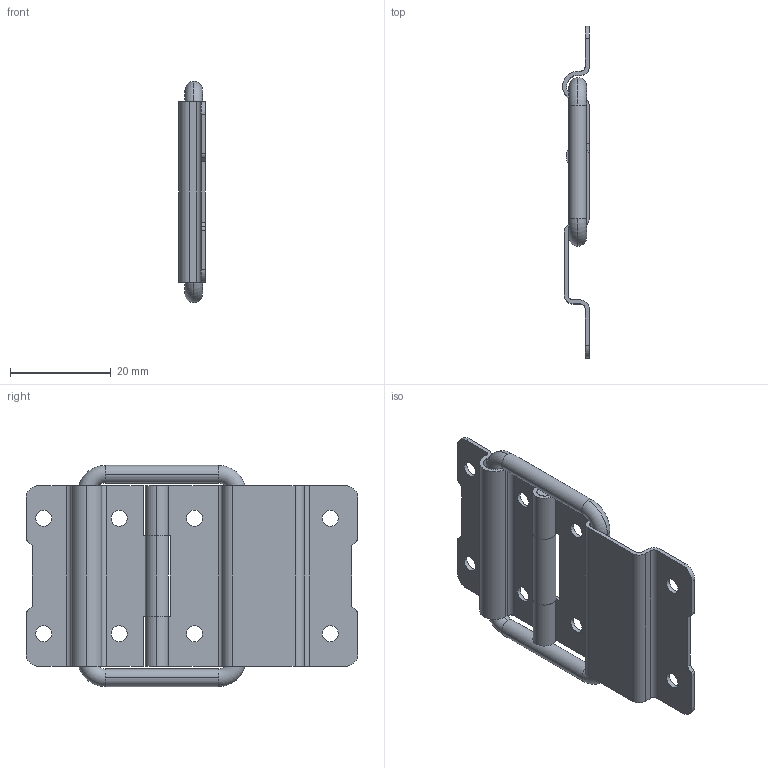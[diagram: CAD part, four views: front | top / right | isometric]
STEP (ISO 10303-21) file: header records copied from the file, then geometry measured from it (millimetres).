
FILE_DESCRIPTION (( 'STEP AP214' ), '1' );
FILE_NAME ('DEH-62.STEP', '2020-02-18T08:53:55', ( '' ), ( '' ), 'SwSTEP 2.0', 'SolidWorks 2019', '' );
FILE_SCHEMA (( 'AUTOMOTIVE_DESIGN' ));
Length unit declared in the file: millimetre
Products named in the file (4): DEH-62Ring; DEH-62; DEH-62HingeA; DEH-62HingeB
Assembly tree (3 placements, depth 2):
  DEH-62
    DEH-62HingeA
    DEH-62HingeB
    DEH-62Ring
Bounding box: 5.3 x 66 x 44 mm (x, y, z)
Volume: 3886.5 mm3; surface area: 8074.7 mm2
Topology: 4 solids, 4 shells, 118 faces, 326 edges, 216 vertices
Faces by surface type: cylinder 64, plane 46, torus 8
Entity records: 4021 total; most frequent: DIRECTION 722, CARTESIAN_POINT 666, ORIENTED_EDGE 652, EDGE_CURVE 326, AXIS2_PLACEMENT_3D 272, VERTEX_POINT 216, LINE 178, VECTOR 178
